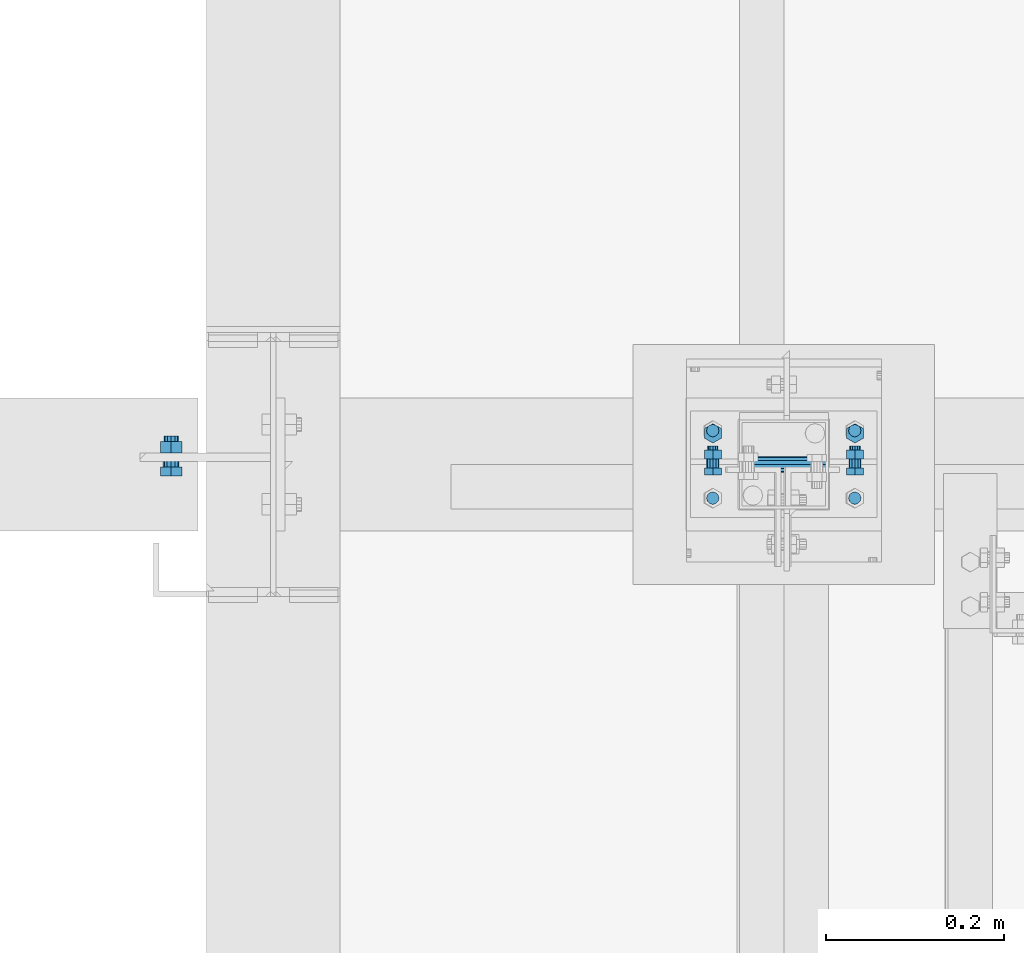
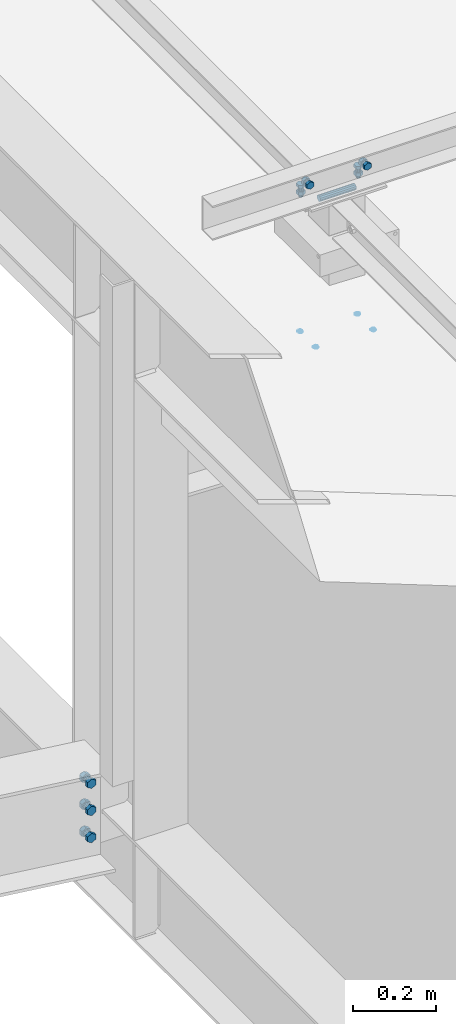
# One storey, part 303 of 3134: 5 mechanical fasteners, 4 elements without a shape of their own.
"""IFC2X3 building model written with IfcOpenShell, lengths in millimetres."""

from ifc_helpers import new_model, si_unit, frame, origin_with_axes, place, context, subcontext, project, spatial, faceted_brep, source, transform, mapped, material, type_object, element, aggregate, save


model = new_model("IFC2X3")

# Units and contexts
model_context = context("Model", 3, precision=1e-05, world=origin_with_axes())
body_context = subcontext(model_context, "Body", "Model", "MODEL_VIEW")
ifc_project = project(units=[si_unit("LENGTHUNIT", "METRE", prefix="MILLI"), si_unit("AREAUNIT", "SQUARE_METRE"), si_unit("VOLUMEUNIT", "CUBIC_METRE"), si_unit("MASSUNIT", "GRAM", prefix="KILO"), si_unit("TIMEUNIT", "SECOND"), si_unit("PLANEANGLEUNIT", "RADIAN"), si_unit("SOLIDANGLEUNIT", "STERADIAN"), si_unit("THERMODYNAMICTEMPERATUREUNIT", "DEGREE_CELSIUS"), si_unit("LUMINOUSINTENSITYUNIT", "LUMEN")], contexts=[model_context])

# Site, building, storey
site_placement = place(None, origin_with_axes())
site = spatial("IfcSite", under=ifc_project, at=site_placement, CompositionType="ELEMENT")
building_placement = place(site_placement, origin_with_axes())
building = spatial("IfcBuilding", under=site, at=building_placement, Name="Undefined", CompositionType="ELEMENT")
storey_placement = place(building_placement, origin_with_axes())
storey = spatial("IfcBuildingStorey", under=building, at=storey_placement, Name="Undefined", CompositionType="ELEMENT", Elevation=0.0)

# Assembly, mechanical fastener
assembly_1_placement = place(storey_placement, origin_with_axes())
assembly_1 = element("IfcElementAssembly", 1, at=assembly_1_placement, inside=storey, AssemblyPlace="NOTDEFINED", PredefinedType="RIGID_FRAME")
ifc_material = material(Name="8.8")
mechanical_fastener_type = type_object("IfcMechanicalFastenerType", Name="Bolt assembly")
shared_shape_1 = source(origin_with_axes(), body_context, "Body", "Brep", [
    faceted_brep([(10.9696551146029, -14.0, 0.0), (5.48482755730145, -14.0, 9.5), (-5.48482755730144, -14.0, 9.5), (-10.9696551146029, -14.0, 1.34339530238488e-15), (-5.48482755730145, -14.0, -9.5), (5.48482755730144, -14.0, -9.50000000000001), (5.48482755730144, -6.0, -9.50000000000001), (-5.48482755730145, -6.0, -9.5), (-10.9696551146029, -6.0, 1.34339530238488e-15), (-5.48482755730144, -6.0, 9.5), (5.48482755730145, -6.0, 9.5), (10.9696551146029, -6.0, 0.0), (6.0, -6.0, 0.0), (5.19615242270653, -6.0, 3.00000000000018), (2.99999999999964, -6.0, 5.19615242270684), (-6.21801588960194e-13, -6.0, 6.0), (-3.00000000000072, -6.0, 5.19615242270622), (-5.19615242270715, -6.0, 2.9999999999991), (-6.0, -6.0, -1.24360317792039e-12), (-5.19615242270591, -6.0, -3.00000000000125), (-2.99999999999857, -6.0, -5.19615242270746), (1.85874342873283e-12, -6.0, -6.0), (3.00000000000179, -6.0, -5.1961524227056), (5.19615242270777, -6.0, -2.99999999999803), (5.19615242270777, 24.0, -2.99999999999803), (3.00000000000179, 24.0, -5.1961524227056), (1.85874342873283e-12, 24.0, -6.0), (-2.99999999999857, 24.0, -5.19615242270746), (-5.19615242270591, 24.0, -3.00000000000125), (-6.0, 24.0, -1.24360317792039e-12), (-5.19615242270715, 24.0, 2.9999999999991), (-3.00000000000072, 24.0, 5.19615242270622), (-6.21801588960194e-13, 24.0, 6.0), (2.99999999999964, 24.0, 5.19615242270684), (5.19615242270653, 24.0, 3.00000000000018), (6.0, 24.0, 0.0), (10.9696551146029, 6.00000000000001, 0.0), (5.48482755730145, 6.00000000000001, 9.5), (-5.48482755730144, 6.00000000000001, 9.5), (-10.9696551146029, 6.00000000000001, 1.34339530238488e-15), (-5.48482755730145, 6.00000000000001, -9.5), (5.48482755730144, 6.00000000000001, -9.50000000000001), (5.48482755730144, 16.0, -9.50000000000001), (-5.48482755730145, 16.0, -9.5), (-10.9696551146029, 16.0, 1.34339530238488e-15), (-5.48482755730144, 16.0, 9.5), (5.48482755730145, 16.0, 9.5), (10.9696551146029, 16.0, 0.0)], [[[0, 1, 2, 3, 4, 5]], [[6, 7, 8, 9, 10, 11]], [[0, 11, 10, 1]], [[1, 10, 9, 2]], [[2, 9, 8, 3]], [[3, 8, 7, 4]], [[4, 7, 6, 5]], [[5, 6, 11, 0]], [[12, 13, 14, 15, 16, 17, 18, 19, 20, 21, 22, 23]], [[24, 25, 26, 27, 28, 29, 30, 31, 32, 33, 34, 35]], [[12, 35, 34, 13]], [[13, 34, 33, 14]], [[14, 33, 32, 15]], [[15, 32, 31, 16]], [[16, 31, 30, 17]], [[17, 30, 29, 18]], [[18, 29, 28, 19]], [[19, 28, 27, 20]], [[20, 27, 26, 21]], [[21, 26, 25, 22]], [[22, 25, 24, 23]], [[23, 24, 35, 12]], [[36, 37, 38, 39, 40, 41]], [[42, 43, 44, 45, 46, 47]], [[36, 47, 46, 37]], [[37, 46, 45, 38]], [[38, 45, 44, 39]], [[39, 44, 43, 40]], [[40, 43, 42, 41]], [[41, 42, 47, 36]]]),
    faceted_brep([(7.0, -0.1, 0.0), (6.06217782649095, -0.1, 3.50000000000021), (3.49999999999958, -0.1, 6.06217782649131), (-7.25435187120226e-13, -0.1, 7.0), (-3.50000000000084, -0.1, 6.06217782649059), (-6.06217782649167, -0.1, 3.49999999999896), (-7.0, -0.1, -1.45087037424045e-12), (-6.06217782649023, -0.1, -3.50000000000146), (-3.49999999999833, -0.1, -6.06217782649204), (2.1685340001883e-12, -0.1, -7.0), (3.50000000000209, -0.1, -6.06217782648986), (6.0621778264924, -0.1, -3.4999999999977), (6.0621778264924, 6.00000000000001, -3.4999999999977), (3.50000000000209, 6.00000000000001, -6.06217782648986), (2.1685340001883e-12, 6.00000000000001, -7.0), (-3.49999999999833, 6.00000000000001, -6.06217782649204), (-6.06217782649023, 6.00000000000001, -3.50000000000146), (-7.0, 6.00000000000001, -1.45087037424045e-12), (-6.06217782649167, 6.00000000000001, 3.49999999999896), (-3.50000000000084, 6.00000000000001, 6.06217782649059), (-7.25435187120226e-13, 6.00000000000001, 7.0), (3.49999999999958, 6.00000000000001, 6.06217782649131), (6.06217782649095, 6.00000000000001, 3.50000000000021), (7.0, 6.00000000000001, 0.0), (7.0, -5.9, 0.0), (6.06217782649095, -5.9, 3.50000000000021), (3.49999999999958, -5.9, 6.06217782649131), (-7.25435187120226e-13, -5.9, 7.0), (-3.50000000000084, -5.9, 6.06217782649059), (-6.06217782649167, -5.9, 3.49999999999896), (-7.0, -5.9, -1.45087037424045e-12), (-6.06217782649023, -5.9, -3.50000000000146), (-3.49999999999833, -5.9, -6.06217782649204), (2.1685340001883e-12, -5.9, -7.0), (3.50000000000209, -5.9, -6.06217782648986), (6.0621778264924, -5.9, -3.4999999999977), (6.0621778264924, 0.0999999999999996, -3.4999999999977), (3.50000000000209, 0.0999999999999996, -6.06217782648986), (2.1685340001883e-12, 0.0999999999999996, -7.0), (-3.49999999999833, 0.0999999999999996, -6.06217782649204), (-6.06217782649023, 0.0999999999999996, -3.50000000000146), (-7.0, 0.0999999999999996, -1.45087037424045e-12), (-6.06217782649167, 0.0999999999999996, 3.49999999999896), (-3.50000000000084, 0.0999999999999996, 6.06217782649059), (-7.25435187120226e-13, 0.0999999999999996, 7.0), (3.49999999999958, 0.0999999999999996, 6.06217782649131), (6.06217782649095, 0.0999999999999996, 3.50000000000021), (7.0, 0.0999999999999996, 0.0)], [[[0, 1, 2, 3, 4, 5, 6, 7, 8, 9, 10, 11]], [[12, 13, 14, 15, 16, 17, 18, 19, 20, 21, 22, 23]], [[0, 23, 22, 1]], [[1, 22, 21, 2]], [[2, 21, 20, 3]], [[3, 20, 19, 4]], [[4, 19, 18, 5]], [[5, 18, 17, 6]], [[6, 17, 16, 7]], [[7, 16, 15, 8]], [[8, 15, 14, 9]], [[9, 14, 13, 10]], [[10, 13, 12, 11]], [[11, 12, 23, 0]], [[24, 25, 26, 27, 28, 29, 30, 31, 32, 33, 34, 35]], [[36, 37, 38, 39, 40, 41, 42, 43, 44, 45, 46, 47]], [[24, 47, 46, 25]], [[25, 46, 45, 26]], [[26, 45, 44, 27]], [[27, 44, 43, 28]], [[28, 43, 42, 29]], [[29, 42, 41, 30]], [[30, 41, 40, 31]], [[31, 40, 39, 32]], [[32, 39, 38, 33]], [[33, 38, 37, 34]], [[34, 37, 36, 35]], [[35, 36, 47, 24]]]),
])
mechanical_fastener_1_placement = place(assembly_1_placement, frame((68125.0, 2585.0, 5850.0), z_axis=(1.0, 0.0, 0.0), x_axis=(0.0, -1.0, 0.0)))
mechanical_fastener_1 = element("IfcMechanicalFastener", 2, at=mechanical_fastener_1_placement, type_object=mechanical_fastener_type, material=ifc_material, Name="Bolt assembly", NominalDiameter=12.0, NominalLength=30.0, context=body_context, shape_type="MappedRepresentation", body=[
    mapped(shared_shape_1, transform((0.0, -5.32963895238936e-10, -79.9999999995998))),
    mapped(shared_shape_1, transform((0.0, 5.3114490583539e-10, 79.9999999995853))),
])

assembly_2_placement = place(storey_placement, origin_with_axes())
assembly_2 = element("IfcElementAssembly", 3, at=assembly_2_placement, inside=storey, Name="300", AssemblyPlace="NOTDEFINED", PredefinedType="RIGID_FRAME")
shared_shape_2 = source(origin_with_axes(), body_context, "Body", "Brep", [
    faceted_brep([(13.856406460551, -13.0499999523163, 0.0), (6.92820323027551, -13.0499999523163, 12.0), (-6.92820323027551, -13.0499999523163, 12.0), (-13.856406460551, -13.0499999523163, 1.69692038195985e-15), (-6.92820323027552, -13.0499999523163, -12.0), (6.9282032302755, -13.0499999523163, -12.0), (6.9282032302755, -3.04999995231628, -12.0), (-6.92820323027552, -3.04999995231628, -12.0), (-13.856406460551, -3.04999995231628, 1.69692038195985e-15), (-6.92820323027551, -3.04999995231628, 12.0), (6.92820323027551, -3.04999995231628, 12.0), (13.856406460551, -3.04999995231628, 0.0), (8.0, -3.04999995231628, 0.0), (6.92820323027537, -3.04999995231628, 4.00000000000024), (3.99999999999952, -3.04999995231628, 6.92820323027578), (-8.29068785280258e-13, -3.04999995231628, 8.0), (-4.00000000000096, -3.04999995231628, 6.92820323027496), (-6.9282032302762, -3.04999995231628, 3.99999999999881), (-8.0, -3.04999995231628, -1.65813757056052e-12), (-6.92820323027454, -3.04999995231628, -4.00000000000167), (-3.99999999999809, -3.04999995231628, -6.92820323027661), (2.47832457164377e-12, -3.04999995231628, -8.0), (4.00000000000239, -3.04999995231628, -6.92820323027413), (6.92820323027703, -3.04999995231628, -3.99999999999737), (6.92820323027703, 31.9500000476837, -3.99999999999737), (4.00000000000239, 31.9500000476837, -6.92820323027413), (2.47832457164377e-12, 31.9500000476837, -8.0), (-3.99999999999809, 31.9500000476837, -6.92820323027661), (-6.92820323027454, 31.9500000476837, -4.00000000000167), (-8.0, 31.9500000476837, -1.65813757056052e-12), (-6.9282032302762, 31.9500000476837, 3.99999999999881), (-4.00000000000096, 31.9500000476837, 6.92820323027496), (-8.29068785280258e-13, 31.9500000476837, 8.0), (3.99999999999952, 31.9500000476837, 6.92820323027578), (6.92820323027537, 31.9500000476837, 4.00000000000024), (8.0, 31.9500000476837, 0.0), (13.856406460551, 13.0500000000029, 0.0), (6.92820323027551, 13.0500000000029, 12.0), (-6.92820323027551, 13.0500000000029, 12.0), (-13.856406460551, 13.0500000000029, 1.69692038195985e-15), (-6.92820323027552, 13.0500000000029, -12.0), (6.9282032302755, 13.0500000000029, -12.0), (6.9282032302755, 26.0500000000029, -12.0), (-6.92820323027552, 26.0500000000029, -12.0), (-13.856406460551, 26.0500000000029, 1.69692038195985e-15), (-6.92820323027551, 26.0500000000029, 12.0), (6.92820323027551, 26.0500000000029, 12.0), (13.856406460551, 26.0500000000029, 0.0)], [[[0, 1, 2, 3, 4, 5]], [[6, 7, 8, 9, 10, 11]], [[0, 11, 10, 1]], [[1, 10, 9, 2]], [[2, 9, 8, 3]], [[3, 8, 7, 4]], [[4, 7, 6, 5]], [[5, 6, 11, 0]], [[12, 13, 14, 15, 16, 17, 18, 19, 20, 21, 22, 23]], [[24, 25, 26, 27, 28, 29, 30, 31, 32, 33, 34, 35]], [[12, 35, 34, 13]], [[13, 34, 33, 14]], [[14, 33, 32, 15]], [[15, 32, 31, 16]], [[16, 31, 30, 17]], [[17, 30, 29, 18]], [[18, 29, 28, 19]], [[19, 28, 27, 20]], [[20, 27, 26, 21]], [[21, 26, 25, 22]], [[22, 25, 24, 23]], [[23, 24, 35, 12]], [[36, 37, 38, 39, 40, 41]], [[42, 43, 44, 45, 46, 47]], [[36, 47, 46, 37]], [[37, 46, 45, 38]], [[38, 45, 44, 39]], [[39, 44, 43, 40]], [[40, 43, 42, 41]], [[41, 42, 47, 36]]]),
    faceted_brep([(9.0, 2.95000000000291, 0.0), (7.79422863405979, 2.95000000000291, 4.50000000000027), (4.49999999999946, 2.95000000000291, 7.79422863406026), (-9.3270238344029e-13, 2.95000000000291, 9.0), (-4.50000000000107, 2.95000000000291, 7.79422863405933), (-7.79422863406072, 2.95000000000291, 4.49999999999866), (-9.0, 2.95000000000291, -1.86540476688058e-12), (-7.79422863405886, 2.95000000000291, -4.50000000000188), (-4.49999999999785, 2.95000000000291, -7.79422863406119), (2.78811514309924e-12, 2.95000000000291, -9.0), (4.50000000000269, 2.95000000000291, -7.7942286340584), (7.79422863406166, 2.95000000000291, -4.49999999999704), (7.79422863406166, 13.0500000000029, -4.49999999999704), (4.50000000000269, 13.0500000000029, -7.7942286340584), (2.78811514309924e-12, 13.0500000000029, -9.0), (-4.49999999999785, 13.0500000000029, -7.79422863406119), (-7.79422863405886, 13.0500000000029, -4.50000000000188), (-9.0, 13.0500000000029, -1.86540476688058e-12), (-7.79422863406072, 13.0500000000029, 4.49999999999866), (-4.50000000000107, 13.0500000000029, 7.79422863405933), (-9.3270238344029e-13, 13.0500000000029, 9.0), (4.49999999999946, 13.0500000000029, 7.79422863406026), (7.79422863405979, 13.0500000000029, 4.50000000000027), (9.0, 13.0500000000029, 0.0), (9.0, -2.94999995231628, 0.0), (7.79422863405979, -2.94999995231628, 4.50000000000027), (4.49999999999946, -2.94999995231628, 7.79422863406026), (-9.3270238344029e-13, -2.94999995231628, 9.0), (-4.50000000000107, -2.94999995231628, 7.79422863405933), (-7.79422863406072, -2.94999995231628, 4.49999999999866), (-9.0, -2.94999995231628, -1.86540476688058e-12), (-7.79422863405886, -2.94999995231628, -4.50000000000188), (-4.49999999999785, -2.94999995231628, -7.79422863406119), (2.78811514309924e-12, -2.94999995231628, -9.0), (4.50000000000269, -2.94999995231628, -7.7942286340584), (7.79422863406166, -2.94999995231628, -4.49999999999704), (7.79422863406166, 3.14999995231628, -4.49999999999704), (4.50000000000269, 3.14999995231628, -7.7942286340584), (2.78811514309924e-12, 3.14999995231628, -9.0), (-4.49999999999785, 3.14999995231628, -7.79422863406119), (-7.79422863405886, 3.14999995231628, -4.50000000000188), (-9.0, 3.14999995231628, -1.86540476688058e-12), (-7.79422863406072, 3.14999995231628, 4.49999999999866), (-4.50000000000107, 3.14999995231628, 7.79422863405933), (-9.3270238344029e-13, 3.14999995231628, 9.0), (4.49999999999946, 3.14999995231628, 7.79422863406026), (7.79422863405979, 3.14999995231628, 4.50000000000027), (9.0, 3.14999995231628, 0.0)], [[[0, 1, 2, 3, 4, 5, 6, 7, 8, 9, 10, 11]], [[12, 13, 14, 15, 16, 17, 18, 19, 20, 21, 22, 23]], [[0, 23, 22, 1]], [[1, 22, 21, 2]], [[2, 21, 20, 3]], [[3, 20, 19, 4]], [[4, 19, 18, 5]], [[5, 18, 17, 6]], [[6, 17, 16, 7]], [[7, 16, 15, 8]], [[8, 15, 14, 9]], [[9, 14, 13, 10]], [[10, 13, 12, 11]], [[11, 12, 23, 0]], [[24, 25, 26, 27, 28, 29, 30, 31, 32, 33, 34, 35]], [[36, 37, 38, 39, 40, 41, 42, 43, 44, 45, 46, 47]], [[24, 47, 46, 25]], [[25, 46, 45, 26]], [[26, 45, 44, 27]], [[27, 44, 43, 28]], [[28, 43, 42, 29]], [[29, 42, 41, 30]], [[30, 41, 40, 31]], [[31, 40, 39, 32]], [[32, 39, 38, 33]], [[33, 38, 37, 34]], [[34, 37, 36, 35]], [[35, 36, 47, 24]]]),
])
mechanical_fastener_2_placement = place(assembly_2_placement, frame((67435.0, 2550.0, 4337.44269270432), z_axis=(1.0, 0.0, 0.0), x_axis=(0.0, 0.0, -1.0)))
mechanical_fastener_2 = element("IfcMechanicalFastener", 4, at=mechanical_fastener_2_placement, type_object=mechanical_fastener_type, material=ifc_material, Name="Bolt assembly", NominalDiameter=16.0, NominalLength=35.0, context=body_context, shape_type="MappedRepresentation", body=[
    mapped(shared_shape_2, transform((0.0, 0.0, 0.0))),
    mapped(shared_shape_2, transform((80.0, 0.0, 0.0))),
    mapped(shared_shape_2, transform((160.0, 0.0, 0.0))),
])
aggregate(assembly_2, [mechanical_fastener_2])

assembly_3_placement = place(storey_placement, origin_with_axes())
assembly_3 = element("IfcElementAssembly", 5, at=assembly_3_placement, inside=storey, AssemblyPlace="NOTDEFINED", PredefinedType="RIGID_FRAME")
shared_shape_3 = source(origin_with_axes(), body_context, "Body", "Brep", [
    faceted_brep([(7.0, 13.0000253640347, 0.0), (6.06217782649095, 13.0000253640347, 3.50000000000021), (3.49999999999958, 13.0000253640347, 6.06217782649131), (-7.25435187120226e-13, 13.0000253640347, 7.0), (-3.50000000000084, 13.0000253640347, 6.06217782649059), (-6.06217782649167, 13.0000253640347, 3.49999999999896), (-7.0, 13.0000253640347, -1.45087037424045e-12), (-6.06217782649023, 13.0000253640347, -3.50000000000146), (-3.49999999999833, 13.0000253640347, -6.06217782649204), (2.1685340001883e-12, 13.0000253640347, -7.0), (3.50000000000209, 13.0000253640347, -6.06217782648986), (6.0621778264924, 13.0000253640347, -3.4999999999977), (6.0621778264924, 15.0999999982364, -3.4999999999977), (3.50000000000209, 15.0999999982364, -6.06217782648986), (2.1685340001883e-12, 15.0999999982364, -7.0), (-3.49999999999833, 15.0999999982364, -6.06217782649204), (-6.06217782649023, 15.0999999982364, -3.50000000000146), (-7.0, 15.0999999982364, -1.45087037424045e-12), (-6.06217782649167, 15.0999999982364, 3.49999999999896), (-3.50000000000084, 15.0999999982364, 6.06217782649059), (-7.25435187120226e-13, 15.0999999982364, 7.0), (3.49999999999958, 15.0999999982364, 6.06217782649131), (6.06217782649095, 15.0999999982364, 3.50000000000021), (7.0, 15.0999999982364, 0.0)], [[[0, 1, 2, 3, 4, 5, 6, 7, 8, 9, 10, 11]], [[12, 13, 14, 15, 16, 17, 18, 19, 20, 21, 22, 23]], [[0, 23, 22, 1]], [[1, 22, 21, 2]], [[2, 21, 20, 3]], [[3, 20, 19, 4]], [[4, 19, 18, 5]], [[5, 18, 17, 6]], [[6, 17, 16, 7]], [[7, 16, 15, 8]], [[8, 15, 14, 9]], [[9, 14, 13, 10]], [[10, 13, 12, 11]], [[11, 12, 23, 0]]]),
])
mechanical_fastener_3_placement = place(assembly_3_placement, frame((68124.3451187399, 2588.0, 5409.1772055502), z_axis=(-0.99951962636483, 0.0, 0.0309922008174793), x_axis=(0.0, -1.0, 0.0)))
mechanical_fastener_3 = element("IfcMechanicalFastener", 6, at=mechanical_fastener_3_placement, type_object=mechanical_fastener_type, material=ifc_material, Name="Bolt assembly", NominalDiameter=12.0, NominalLength=2.0, context=body_context, shape_type="MappedRepresentation", body=[
    mapped(shared_shape_3, transform((0.0, -5.32963895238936e-10, -79.9999999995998))),
    mapped(shared_shape_3, transform((76.0, -5.32963895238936e-10, -79.9999999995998))),
    mapped(shared_shape_3, transform((0.0, 5.3114490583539e-10, 79.9999999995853))),
    mapped(shared_shape_3, transform((76.0, 5.3114490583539e-10, 79.9999999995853))),
])
aggregate(assembly_3, [mechanical_fastener_3])

assembly_4_placement = place(storey_placement, origin_with_axes())
assembly_4 = element("IfcElementAssembly", 7, at=assembly_4_placement, inside=storey, AssemblyPlace="NOTDEFINED", PredefinedType="RIGID_FRAME")
shared_shape_4 = source(origin_with_axes(), body_context, "Body", "Brep", [
    faceted_brep([(9.0, -50.0, 0.0), (7.79422863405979, -50.0, 4.50000000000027), (4.49999999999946, -50.0, 7.79422863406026), (-9.3270238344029e-13, -50.0, 9.0), (-4.50000000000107, -50.0, 7.79422863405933), (-7.79422863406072, -50.0, 4.49999999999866), (-9.0, -50.0, -1.86540476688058e-12), (-7.79422863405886, -50.0, -4.50000000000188), (-4.49999999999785, -50.0, -7.79422863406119), (2.78811514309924e-12, -50.0, -9.0), (4.50000000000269, -50.0, -7.7942286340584), (7.79422863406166, -50.0, -4.49999999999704), (7.79422863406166, 50.1, -4.49999999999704), (4.50000000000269, 50.1, -7.7942286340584), (2.78811514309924e-12, 50.1, -9.0), (-4.49999999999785, 50.1, -7.79422863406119), (-7.79422863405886, 50.1, -4.50000000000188), (-9.0, 50.1, -1.86540476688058e-12), (-7.79422863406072, 50.1, 4.49999999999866), (-4.50000000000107, 50.1, 7.79422863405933), (-9.3270238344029e-13, 50.1, 9.0), (4.49999999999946, 50.1, 7.79422863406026), (7.79422863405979, 50.1, 4.50000000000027), (9.0, 50.1, 0.0)], [[[0, 1, 2, 3, 4, 5, 6, 7, 8, 9, 10, 11]], [[12, 13, 14, 15, 16, 17, 18, 19, 20, 21, 22, 23]], [[0, 23, 22, 1]], [[1, 22, 21, 2]], [[2, 21, 20, 3]], [[3, 20, 19, 4]], [[4, 19, 18, 5]], [[5, 18, 17, 6]], [[6, 17, 16, 7]], [[7, 16, 15, 8]], [[8, 15, 14, 9]], [[9, 14, 13, 10]], [[10, 13, 12, 11]], [[11, 12, 23, 0]]]),
])
mechanical_fastener_4_placement = place(assembly_4_placement, frame((68125.0, 2550.0, 5830.0), z_axis=(0.0, 1.0, 0.0), x_axis=(0.0, 0.0, 1.0)))
mechanical_fastener_4 = element("IfcMechanicalFastener", 8, at=mechanical_fastener_4_placement, type_object=mechanical_fastener_type, material=ifc_material, Name="Bolt assembly", NominalDiameter=16.0, NominalLength=100.0, context=body_context, shape_type="MappedRepresentation", body=[
    mapped(shared_shape_4, transform((0.0, 0.0, 0.0))),
])
aggregate(assembly_4, [mechanical_fastener_4])

# Mechanical fastener
shared_shape_5 = source(origin_with_axes(), body_context, "Body", "Brep", [
    faceted_brep([(10.9696551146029, -12.0, 0.0), (5.48482755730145, -12.0, 9.5), (-5.48482755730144, -12.0, 9.5), (-10.9696551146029, -12.0, 1.34339530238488e-15), (-5.48482755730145, -12.0, -9.5), (5.48482755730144, -12.0, -9.50000000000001), (5.48482755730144, -4.0, -9.50000000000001), (-5.48482755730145, -4.0, -9.5), (-10.9696551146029, -4.0, 1.34339530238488e-15), (-5.48482755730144, -4.0, 9.5), (5.48482755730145, -4.0, 9.5), (10.9696551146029, -4.0, 0.0), (6.0, -4.0, 0.0), (5.19615242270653, -4.0, 3.00000000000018), (2.99999999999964, -4.0, 5.19615242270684), (-6.21801588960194e-13, -4.0, 6.0), (-3.00000000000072, -4.0, 5.19615242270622), (-5.19615242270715, -4.0, 2.9999999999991), (-6.0, -4.0, -1.24360317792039e-12), (-5.19615242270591, -4.0, -3.00000000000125), (-2.99999999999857, -4.0, -5.19615242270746), (1.85874342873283e-12, -4.0, -6.0), (3.00000000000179, -4.0, -5.1961524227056), (5.19615242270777, -4.0, -2.99999999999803), (5.19615242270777, 21.0, -2.99999999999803), (3.00000000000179, 21.0, -5.1961524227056), (1.85874342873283e-12, 21.0, -6.0), (-2.99999999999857, 21.0, -5.19615242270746), (-5.19615242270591, 21.0, -3.00000000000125), (-6.0, 21.0, -1.24360317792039e-12), (-5.19615242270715, 21.0, 2.9999999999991), (-3.00000000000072, 21.0, 5.19615242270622), (-6.21801588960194e-13, 21.0, 6.0), (2.99999999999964, 21.0, 5.19615242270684), (5.19615242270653, 21.0, 3.00000000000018), (6.0, 21.0, 0.0), (10.9696551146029, 6.00000000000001, 0.0), (5.48482755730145, 6.00000000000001, 9.5), (-5.48482755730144, 6.00000000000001, 9.5), (-10.9696551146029, 6.00000000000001, 1.34339530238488e-15), (-5.48482755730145, 6.00000000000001, -9.5), (5.48482755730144, 6.00000000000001, -9.50000000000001), (5.48482755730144, 16.0, -9.50000000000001), (-5.48482755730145, 16.0, -9.5), (-10.9696551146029, 16.0, 1.34339530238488e-15), (-5.48482755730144, 16.0, 9.5), (5.48482755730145, 16.0, 9.5), (10.9696551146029, 16.0, 0.0)], [[[0, 1, 2, 3, 4, 5]], [[6, 7, 8, 9, 10, 11]], [[0, 11, 10, 1]], [[1, 10, 9, 2]], [[2, 9, 8, 3]], [[3, 8, 7, 4]], [[4, 7, 6, 5]], [[5, 6, 11, 0]], [[12, 13, 14, 15, 16, 17, 18, 19, 20, 21, 22, 23]], [[24, 25, 26, 27, 28, 29, 30, 31, 32, 33, 34, 35]], [[12, 35, 34, 13]], [[13, 34, 33, 14]], [[14, 33, 32, 15]], [[15, 32, 31, 16]], [[16, 31, 30, 17]], [[17, 30, 29, 18]], [[18, 29, 28, 19]], [[19, 28, 27, 20]], [[20, 27, 26, 21]], [[21, 26, 25, 22]], [[22, 25, 24, 23]], [[23, 24, 35, 12]], [[36, 37, 38, 39, 40, 41]], [[42, 43, 44, 45, 46, 47]], [[36, 47, 46, 37]], [[37, 46, 45, 38]], [[38, 45, 44, 39]], [[39, 44, 43, 40]], [[40, 43, 42, 41]], [[41, 42, 47, 36]]]),
    faceted_brep([(7.0, -3.9, 0.0), (6.06217782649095, -3.9, 3.50000000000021), (3.49999999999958, -3.9, 6.06217782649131), (-7.25435187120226e-13, -3.9, 7.0), (-3.50000000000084, -3.9, 6.06217782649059), (-6.06217782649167, -3.9, 3.49999999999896), (-7.0, -3.9, -1.45087037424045e-12), (-6.06217782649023, -3.9, -3.50000000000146), (-3.49999999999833, -3.9, -6.06217782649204), (2.1685340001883e-12, -3.9, -7.0), (3.50000000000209, -3.9, -6.06217782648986), (6.0621778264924, -3.9, -3.4999999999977), (6.0621778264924, 0.0999999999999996, -3.4999999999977), (3.50000000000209, 0.0999999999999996, -6.06217782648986), (2.1685340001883e-12, 0.0999999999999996, -7.0), (-3.49999999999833, 0.0999999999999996, -6.06217782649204), (-6.06217782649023, 0.0999999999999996, -3.50000000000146), (-7.0, 0.0999999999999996, -1.45087037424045e-12), (-6.06217782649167, 0.0999999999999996, 3.49999999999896), (-3.50000000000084, 0.0999999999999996, 6.06217782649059), (-7.25435187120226e-13, 0.0999999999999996, 7.0), (3.49999999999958, 0.0999999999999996, 6.06217782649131), (6.06217782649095, 0.0999999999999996, 3.50000000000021), (7.0, 0.0999999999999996, 0.0), (7.0, -0.1, 0.0), (6.06217782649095, -0.1, 3.50000000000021), (3.49999999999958, -0.1, 6.06217782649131), (-7.25435187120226e-13, -0.1, 7.0), (-3.50000000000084, -0.1, 6.06217782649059), (-6.06217782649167, -0.1, 3.49999999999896), (-7.0, -0.1, -1.45087037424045e-12), (-6.06217782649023, -0.1, -3.50000000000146), (-3.49999999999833, -0.1, -6.06217782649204), (2.1685340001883e-12, -0.1, -7.0), (3.50000000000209, -0.1, -6.06217782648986), (6.0621778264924, -0.1, -3.4999999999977), (6.0621778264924, 6.00000000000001, -3.4999999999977), (3.50000000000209, 6.00000000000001, -6.06217782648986), (2.1685340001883e-12, 6.00000000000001, -7.0), (-3.49999999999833, 6.00000000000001, -6.06217782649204), (-6.06217782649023, 6.00000000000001, -3.50000000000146), (-7.0, 6.00000000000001, -1.45087037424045e-12), (-6.06217782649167, 6.00000000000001, 3.49999999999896), (-3.50000000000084, 6.00000000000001, 6.06217782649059), (-7.25435187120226e-13, 6.00000000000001, 7.0), (3.49999999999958, 6.00000000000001, 6.06217782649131), (6.06217782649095, 6.00000000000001, 3.50000000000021), (7.0, 6.00000000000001, 0.0)], [[[0, 1, 2, 3, 4, 5, 6, 7, 8, 9, 10, 11]], [[12, 13, 14, 15, 16, 17, 18, 19, 20, 21, 22, 23]], [[0, 23, 22, 1]], [[1, 22, 21, 2]], [[2, 21, 20, 3]], [[3, 20, 19, 4]], [[4, 19, 18, 5]], [[5, 18, 17, 6]], [[6, 17, 16, 7]], [[7, 16, 15, 8]], [[8, 15, 14, 9]], [[9, 14, 13, 10]], [[10, 13, 12, 11]], [[11, 12, 23, 0]], [[24, 25, 26, 27, 28, 29, 30, 31, 32, 33, 34, 35]], [[36, 37, 38, 39, 40, 41, 42, 43, 44, 45, 46, 47]], [[24, 47, 46, 25]], [[25, 46, 45, 26]], [[26, 45, 44, 27]], [[27, 44, 43, 28]], [[28, 43, 42, 29]], [[29, 42, 41, 30]], [[30, 41, 40, 31]], [[31, 40, 39, 32]], [[32, 39, 38, 33]], [[33, 38, 37, 34]], [[34, 37, 36, 35]], [[35, 36, 47, 24]]]),
])
mechanical_fastener_5_placement = place(assembly_1_placement, frame((68125.0, 2550.0, 5885.0), z_axis=(1.0, 0.0, 0.0), x_axis=(0.0, 0.0, -1.0)))
mechanical_fastener_5 = element("IfcMechanicalFastener", 9, at=mechanical_fastener_5_placement, type_object=mechanical_fastener_type, material=ifc_material, Name="Bolt assembly", NominalDiameter=12.0, NominalLength=25.0, context=body_context, shape_type="MappedRepresentation", body=[
    mapped(shared_shape_5, transform((0.0, -5.32963895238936e-10, -79.9999999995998))),
    mapped(shared_shape_5, transform((0.0, 5.3114490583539e-10, 79.9999999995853))),
])

aggregate(assembly_1, [mechanical_fastener_5, mechanical_fastener_1])

save(model, "model.ifc")
